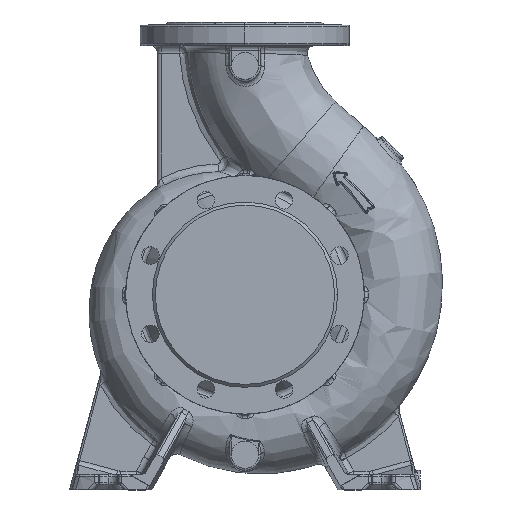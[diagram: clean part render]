
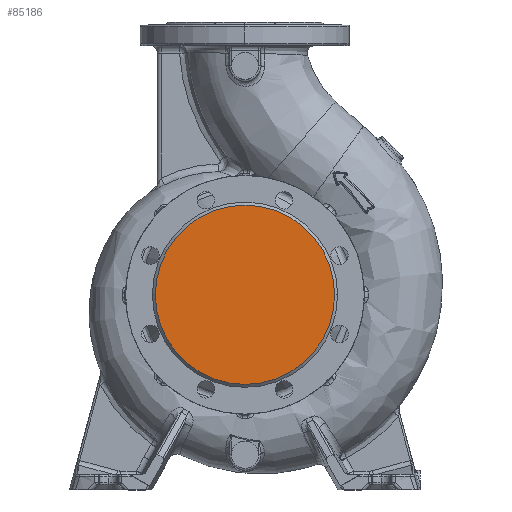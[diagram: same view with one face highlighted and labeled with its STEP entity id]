
A CAD part, top view. The second image highlights one B-rep face of the part: STEP entity #85186.
In plain terms, the highlighted planar face has unit normal (0, 0, 1).
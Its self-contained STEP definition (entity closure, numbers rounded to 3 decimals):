
#2879 = VERTEX_POINT ( 'NONE', #41094 ) ;
#5958 = CARTESIAN_POINT ( 'NONE',  ( 0., 0., 125. ) ) ;
#11429 = ORIENTED_EDGE ( 'NONE', *, *, #34381, .T. ) ;
#11905 = PLANE ( 'NONE',  #28480 ) ;
#23023 = EDGE_LOOP ( 'NONE', ( #11429, #33676 ) ) ;
#23079 = AXIS2_PLACEMENT_3D ( 'NONE', #66211, #38813, #59306 ) ;
#23776 = FACE_OUTER_BOUND ( 'NONE', #23023, .T. ) ;
#28480 = AXIS2_PLACEMENT_3D ( 'NONE', #5958, #49721, #83925 ) ;
#31149 = VERTEX_POINT ( 'NONE', #87951 ) ;
#33676 = ORIENTED_EDGE ( 'NONE', *, *, #58435, .T. ) ;
#34381 = EDGE_CURVE ( 'NONE', #2879, #31149, #38181, .T. ) ;
#38181 = CIRCLE ( 'NONE', #71400, 92. ) ;
#38813 = DIRECTION ( 'NONE',  ( 0., 0., 1. ) ) ;
#39866 = CARTESIAN_POINT ( 'NONE',  ( 0., 0., 125. ) ) ;
#41094 = CARTESIAN_POINT ( 'NONE',  ( -92., 0., 125. ) ) ;
#49721 = DIRECTION ( 'NONE',  ( 0., 0., 1. ) ) ;
#58435 = EDGE_CURVE ( 'NONE', #31149, #2879, #82595, .T. ) ;
#59306 = DIRECTION ( 'NONE',  ( 1., 0., 0. ) ) ;
#66211 = CARTESIAN_POINT ( 'NONE',  ( 0., 0., 125. ) ) ;
#71400 = AXIS2_PLACEMENT_3D ( 'NONE', #39866, #75611, #75314 ) ;
#75314 = DIRECTION ( 'NONE',  ( 1., 0., 0. ) ) ;
#75611 = DIRECTION ( 'NONE',  ( 0., 0., 1. ) ) ;
#82595 = CIRCLE ( 'NONE', #23079, 92. ) ;
#83925 = DIRECTION ( 'NONE',  ( 1., 0., 0. ) ) ;
#85186 = ADVANCED_FACE ( 'NONE', ( #23776 ), #11905, .T. ) ;
#87951 = CARTESIAN_POINT ( 'NONE',  ( 92., 0., 125. ) ) ;
